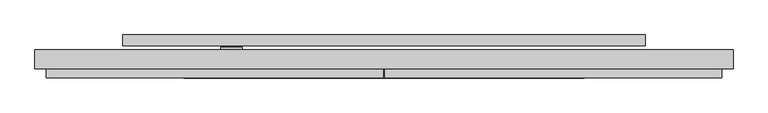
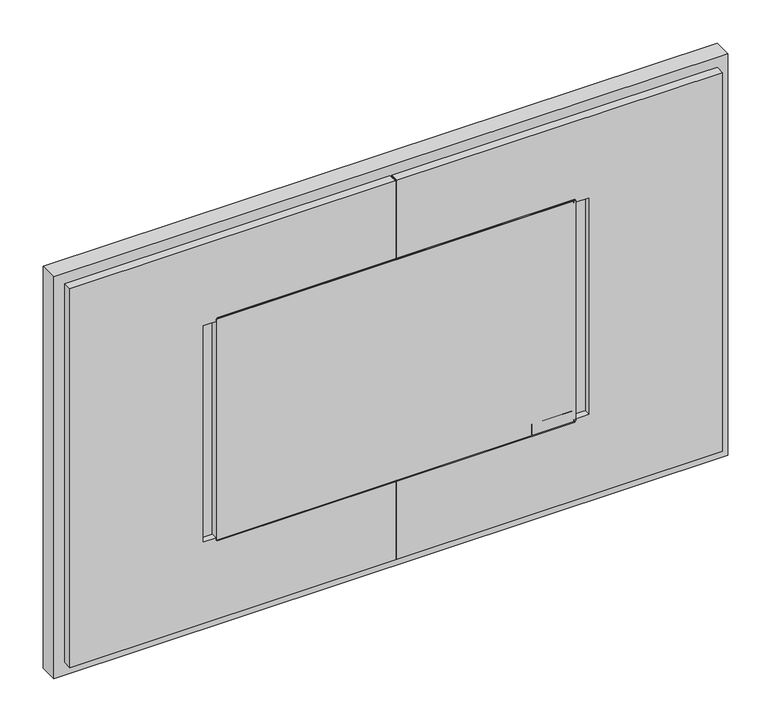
"""IFC4 building model written with IfcOpenShell, lengths in millimetres: plate geometry, Panel-Module-Teknion-Altos-TV_Shroud_With_Ceiling_and_Base : Side A TV Shroud, Side B Landscape Wall."""

from ifc_helpers import new_model, si_unit, point, frame, frame_2d, origin, place, context, project, spatial, polyline, circle_curve, trimmed, segment, composite_curve, outline, extrude, source, transform, mapped, element, save


def plate_87f0cef8(model_context):
    return source(origin(), model_context, "Body", "SweptSolid", [
        extrude(outline(polyline([(587.375, -5.3747645), (587.375, -8.0316045), (513.588, -8.0316045), (513.588, -27.5896045), (-513.588, -27.5896045), (-513.588, -8.0316045), (-587.375, -8.0316045), (-587.375, -5.3747645), (-510.93116, -5.3747645), (-510.93116, -24.9327645), (510.93116, -24.9327645), (510.93116, -5.3747645), (587.375, -5.3747645)])), frame((0.0, 0.0, 1194.181), z_axis=(0.0, 0.0, 1.0), x_axis=(1.0, 0.0, 0.0)), (0.0, 0.0, 1.0), 666.75),
        extrude(outline(polyline([(-5.3747645, 1897.13616), (-5.3747645, 1861.693), (-24.9327645, 1861.693), (-24.9327645, 1193.419), (-5.3747645, 1193.419), (-5.3747645, 1157.97584), (-8.0316045, 1157.97584), (-8.0316045, 1190.76216), (-27.5896045, 1190.76216), (-27.5896045, 1864.34984), (-8.0316045, 1864.34984), (-8.0316045, 1897.13616), (-5.3747645, 1897.13616)])), frame((-510.16916, 0.0, 0.0), z_axis=(1.0, 0.0, 0.0), x_axis=(0.0, 1.0, 0.0)), (0.0, 0.0, 1.0), 1020.33832),
        extrude(outline(polyline([(2098.3702, 0.0), (2098.3702, -2.3931562), (2099.564, -2.3931562), (2099.564, -931.7537562), (955.5633805, -931.7537562), (955.5633805, -2.3931562), (956.7418, -2.3931562), (956.7418, 0.0), (1194.181, 0.0), (1194.181, -507.2181562), (1200.531, -507.2181562), (1200.531, -551.6681562), (1854.581, -551.6681562), (1854.581, -507.2181562), (1860.931, -507.2181562), (1860.931, 0.0), (2098.3702, 0.0)])), frame((0.0, -27.5896045, 0.0), z_axis=(0.0, 1.0, 0.0), x_axis=(0.0, 0.0, 1.0)), (0.0, 0.0, 1.0), 25.68194),
        extrude(outline(polyline([(2098.3702, 0.0), (1860.931, 0.0), (1860.931, 507.2181563), (1854.581, 507.2181563), (1854.581, 551.6681563), (1200.531, 551.6681563), (1200.531, 507.2181563), (1194.181, 507.2181563), (1194.181, 0.0), (956.7418, 0.0), (956.7418, 2.3931563), (955.548, 2.3931563), (955.548, 931.7537563), (2099.564, 931.7537563), (2099.564, 2.3931563), (2098.3702, 2.3931563), (2098.3702, 0.0)])), frame((0.0, -27.5896045, 0.0), z_axis=(0.0, 1.0, 0.0), x_axis=(0.0, 0.0, 1.0)), (0.0, 0.0, 1.0), 25.68194),
        extrude(outline(polyline([(28.9703956, 1118.87), (-1.9076645, 1118.87), (-1.9076645, 1195.1335), (-27.5896045, 1195.1335), (-27.5896045, 1228.409235), (28.9703956, 1228.409235), (28.9703956, 1118.87)])), frame((387.10616, 0.0, 0.0), z_axis=(1.0, 0.0, 0.0), x_axis=(0.0, 1.0, 0.0)), (0.0, 0.0, 1.0), 114.3),
        extrude(outline(polyline([(-510.93116, -5.3747645), (-510.93116, 32.7178517), (-409.33116, 32.7178517), (-409.33116, -5.3747645), (-510.93116, -5.3747645)])), frame((0.0, 0.0, 1275.969), z_axis=(0.0, 0.0, 1.0), x_axis=(1.0, 0.0, 0.0)), (0.0, 0.0, 1.0), 292.1),
        extrude(outline(polyline([(-390.5800001, 57.6172355), (-390.5800001, 44.9172355), (-450.58, 44.9172355), (-450.58, 57.6172355), (-390.5800001, 57.6172355)])), frame((0.0, 0.0, 1277.3984), z_axis=(0.0, 0.0, 1.0), x_axis=(1.0, 0.0, 0.0)), (0.0, 0.0, 1.0), 59.6534781),
        extrude(outline(polyline([(917.575, 962.6147562), (2130.425, 962.6147562), (2130.425, -962.6147562), (917.575, -962.6147562), (917.575, 962.6147562)]), holes=[polyline([(960.882, -919.3077562), (2087.118, -919.3077562), (2087.118, 919.3077563), (960.882, 919.3077563), (960.882, -919.3077562)])]), frame((0.0, -1.9076645, 0.0), z_axis=(0.0, 1.0, 0.0), x_axis=(0.0, 0.0, 1.0)), (0.0, 0.0, 1.0), 51.91506),
        extrude(outline(composite_curve([segment(polyline([(381.0, -24.9327645), (367.370064, -11.3028285)]), True, "CONTINUOUS"), segment(trimmed(circle_curve(frame_2d((361.95, -16.7228926)), 7.6651281), [point((367.370064, -11.3028285))], [point((361.95, -9.0577645))], True, "CARTESIAN"), True, "CONTINUOUS"), segment(polyline([(361.95, -9.0577645), (-361.95, -9.0577645)]), True, "CONTINUOUS"), segment(trimmed(circle_curve(frame_2d((-361.95, -16.7228926)), 7.6651281), [point((-361.95, -9.0577645))], [point((-367.370064, -11.3028285))], True, "CARTESIAN"), True, "CONTINUOUS"), segment(polyline([(-367.370064, -11.3028285), (-381.0, -24.9327645), (-382.8786696, -23.0540949), (-369.2487336, -9.424159)]), True, "CONTINUOUS"), segment(trimmed(circle_curve(frame_2d((-361.95, -16.7228926)), 10.3219681), [point((-369.2487336, -9.424159))], [point((-361.95, -6.4009245))], False, "CARTESIAN"), True, "CONTINUOUS"), segment(polyline([(-361.95, -6.4009245), (361.95, -6.4009245)]), True, "CONTINUOUS"), segment(trimmed(circle_curve(frame_2d((361.95, -16.7228926)), 10.3219681), [point((361.95, -6.4009245))], [point((369.2487336, -9.424159))], False, "CARTESIAN"), True, "CONTINUOUS"), segment(polyline([(369.2487336, -9.424159), (382.8786696, -23.0540949), (381.0, -24.9327645)]), True, "CONTINUOUS")], self_intersect=False)), frame((0.0, 0.0, 1406.906), z_axis=(0.0, 0.0, 1.0), x_axis=(1.0, 0.0, 0.0)), (0.0, 0.0, 1.0), 241.3),
        extrude(outline(polyline([(-720.09, 61.8172355), (-720.09, 91.2172355), (720.09, 91.2172355), (720.09, 61.8172355), (-720.09, 61.8172355)])), frame((0.0, 0.0, 1118.87), z_axis=(0.0, 0.0, 1.0), x_axis=(1.0, 0.0, 0.0)), (0.0, 0.0, 1.0), 810.26),
    ])


if __name__ == "__main__":
    model = new_model("IFC4")
    model_context = context("Model", 3, world=origin())
    ifc_project = project(units=[si_unit("LENGTHUNIT", "METRE", prefix="MILLI")], contexts=[model_context])
    site = spatial("IfcSite", under=ifc_project)
    building = spatial("IfcBuilding", under=site)
    placement = place(None, origin())
    plate_shape = plate_87f0cef8(model_context)
    element("IfcPlate", 1, ObjectType="Panel-Module-Teknion-Altos-TV_Shroud_With_Ceiling_and_Base : Side A TV Shroud, Side B Landscape Wall", at=placement, inside=building, context=model_context, shape_type="MappedRepresentation", body=[
        mapped(plate_shape, transform((0.0, 0.0, 0.0), x_axis=(1.0, 0.0, 0.0), y_axis=(0.0, 1.0, 0.0), z_axis=(0.0, 0.0, 1.0))),
    ])
    save(model, "model.ifc")
